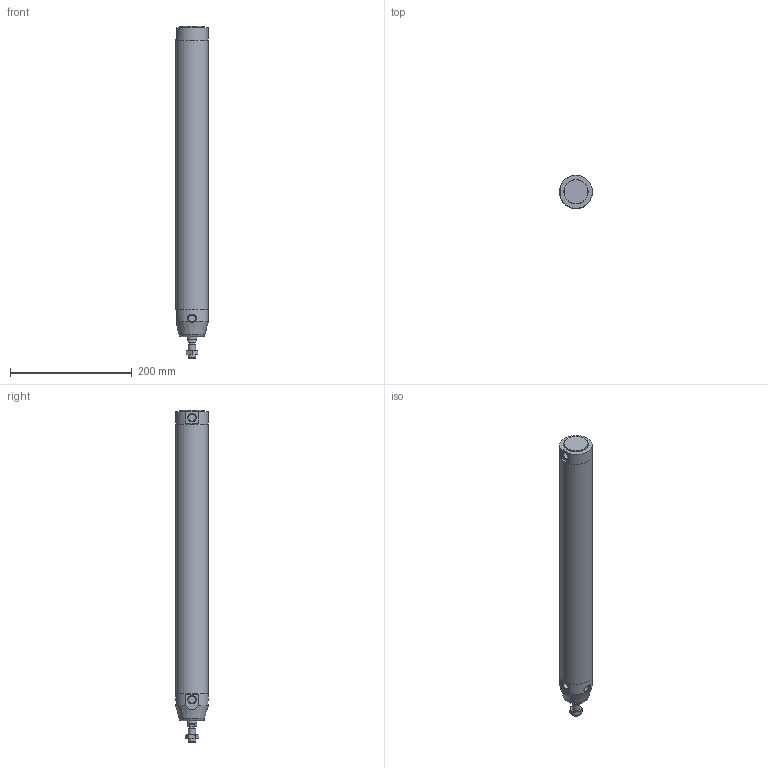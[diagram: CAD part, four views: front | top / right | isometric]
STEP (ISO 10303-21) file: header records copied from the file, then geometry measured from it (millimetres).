
FILE_DESCRIPTION(/* description */ (''),/* implementation_level */ '2;1');
FILE_NAME(/* name */ 'I:\Area Tecnica\Documenti\A-Manieri\_Inventor\12X\12X#E_###_####_#_#\12XAE_050_0400_#_#.stp',/* time_stamp */ '2015-05-08T13:40:52+02:00',/* author */ ('maniean1'),/* organization */ ('Pneumax S.p.A.'),/* preprocessor_version */ 'ST-DEVELOPER v15.2',/* originating_system */ 'Autodesk Inventor 2014',/* authorisation */ '');
FILE_SCHEMA (('AUTOMOTIVE_DESIGN { 1 0 10303 214 3 1 1 }'));
Length unit declared in the file: millimetre
Products named in the file (6): C1250_619-0400; 12X50_622; S12X50_0400; 12X_50_11; 12X50_611; 12XAE_050_0400_#_#
Bounding box: 54 x 54 x 545 mm (x, y, z)
Volume: 449814.3 mm3; surface area: 202380.1 mm2
Topology: 5 solids, 5 shells, 65 faces, 132 edges, 84 vertices
Faces by surface type: plane 33, cylinder 18, cone 13, torus 1
Full cylindrical faces by diameter (mm): 10.2 x1, 10.9 x2, 11.4 x2, 12 x2, 14 x1, 14.1 x2, 15.6 x1, 16 x1, 40 x1, 50 x2, 54 x3
Entity records: 1691 total; most frequent: CARTESIAN_POINT 368, DIRECTION 279, ORIENTED_EDGE 190, AXIS2_PLACEMENT_3D 129, EDGE_LOOP 108, EDGE_CURVE 95, VERTEX_POINT 77, ADVANCED_FACE 65
